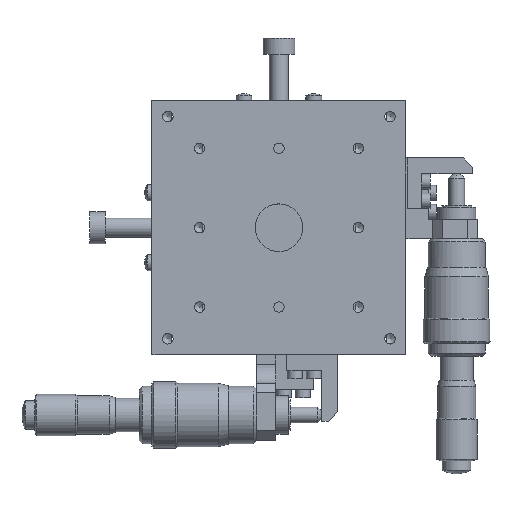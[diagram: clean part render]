
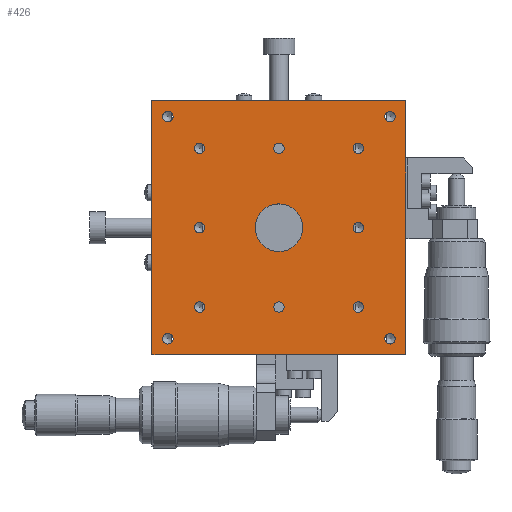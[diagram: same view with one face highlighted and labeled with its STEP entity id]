
A CAD part, top view. The second image highlights one B-rep face of the part: STEP entity #426.
In plain terms, the highlighted planar face has unit normal (0, 0, 1).
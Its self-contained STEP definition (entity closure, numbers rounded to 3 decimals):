
#426 = ADVANCED_FACE( '', ( #959, #960, #961, #962, #963, #964, #965, #966, #967, #968, #969, #970, #971, #972 ), #973, .T. );
#959 = FACE_OUTER_BOUND( '', #1710, .T. );
#960 = FACE_BOUND( '', #1711, .T. );
#961 = FACE_BOUND( '', #1712, .T. );
#962 = FACE_BOUND( '', #1713, .T. );
#963 = FACE_BOUND( '', #1714, .T. );
#964 = FACE_BOUND( '', #1715, .T. );
#965 = FACE_BOUND( '', #1716, .T. );
#966 = FACE_BOUND( '', #1717, .T. );
#967 = FACE_BOUND( '', #1718, .T. );
#968 = FACE_BOUND( '', #1719, .T. );
#969 = FACE_BOUND( '', #1720, .T. );
#970 = FACE_BOUND( '', #1721, .T. );
#971 = FACE_BOUND( '', #1722, .T. );
#972 = FACE_BOUND( '', #1723, .T. );
#973 = PLANE( '', #1724 );
#1710 = EDGE_LOOP( '', ( #3213, #3214, #3215, #3216 ) );
#1711 = EDGE_LOOP( '', ( #3217 ) );
#1712 = EDGE_LOOP( '', ( #3218 ) );
#1713 = EDGE_LOOP( '', ( #3219 ) );
#1714 = EDGE_LOOP( '', ( #3220 ) );
#1715 = EDGE_LOOP( '', ( #3221 ) );
#1716 = EDGE_LOOP( '', ( #3222 ) );
#1717 = EDGE_LOOP( '', ( #3223 ) );
#1718 = EDGE_LOOP( '', ( #3224 ) );
#1719 = EDGE_LOOP( '', ( #3225 ) );
#1720 = EDGE_LOOP( '', ( #3226 ) );
#1721 = EDGE_LOOP( '', ( #3227 ) );
#1722 = EDGE_LOOP( '', ( #3228 ) );
#1723 = EDGE_LOOP( '', ( #3229 ) );
#1724 = AXIS2_PLACEMENT_3D( '', #3230, #3231, #3232 );
#3213 = ORIENTED_EDGE( '', *, *, #4679, .T. );
#3214 = ORIENTED_EDGE( '', *, *, #4680, .T. );
#3215 = ORIENTED_EDGE( '', *, *, #4637, .T. );
#3216 = ORIENTED_EDGE( '', *, *, #4681, .T. );
#3217 = ORIENTED_EDGE( '', *, *, #4552, .T. );
#3218 = ORIENTED_EDGE( '', *, *, #4555, .T. );
#3219 = ORIENTED_EDGE( '', *, *, #4682, .T. );
#3220 = ORIENTED_EDGE( '', *, *, #4657, .T. );
#3221 = ORIENTED_EDGE( '', *, *, #4625, .T. );
#3222 = ORIENTED_EDGE( '', *, *, #4539, .T. );
#3223 = ORIENTED_EDGE( '', *, *, #4683, .T. );
#3224 = ORIENTED_EDGE( '', *, *, #4684, .T. );
#3225 = ORIENTED_EDGE( '', *, *, #4592, .T. );
#3226 = ORIENTED_EDGE( '', *, *, #4685, .T. );
#3227 = ORIENTED_EDGE( '', *, *, #4686, .T. );
#3228 = ORIENTED_EDGE( '', *, *, #4687, .T. );
#3229 = ORIENTED_EDGE( '', *, *, #4688, .T. );
#3230 = CARTESIAN_POINT( '', ( 0., 0., 22. ) );
#3231 = DIRECTION( '', ( 0., 0., 1. ) );
#3232 = DIRECTION( '', ( -1., 0., 0. ) );
#4539 = EDGE_CURVE( '', #5386, #5386, #5387, .F. );
#4552 = EDGE_CURVE( '', #5410, #5410, #5411, .F. );
#4555 = EDGE_CURVE( '', #5414, #5414, #5415, .F. );
#4592 = EDGE_CURVE( '', #5480, #5480, #5481, .F. );
#4625 = EDGE_CURVE( '', #5539, #5539, #5540, .F. );
#4637 = EDGE_CURVE( '', #5561, #5558, #5562, .T. );
#4657 = EDGE_CURVE( '', #5591, #5591, #5592, .F. );
#4679 = EDGE_CURVE( '', #5626, #5627, #5628, .T. );
#4680 = EDGE_CURVE( '', #5627, #5561, #5629, .T. );
#4681 = EDGE_CURVE( '', #5558, #5626, #5630, .T. );
#4682 = EDGE_CURVE( '', #5631, #5631, #5632, .F. );
#4683 = EDGE_CURVE( '', #5633, #5633, #5634, .F. );
#4684 = EDGE_CURVE( '', #5635, #5635, #5636, .F. );
#4685 = EDGE_CURVE( '', #5637, #5637, #5638, .F. );
#4686 = EDGE_CURVE( '', #5639, #5639, #5640, .F. );
#4687 = EDGE_CURVE( '', #5641, #5641, #5642, .F. );
#4688 = EDGE_CURVE( '', #5643, #5643, #5644, .F. );
#5386 = VERTEX_POINT( '', #6686 );
#5387 = CIRCLE( '', #6687, 1.65 );
#5410 = VERTEX_POINT( '', #6737 );
#5411 = CIRCLE( '', #6738, 1.65 );
#5414 = VERTEX_POINT( '', #6741 );
#5415 = CIRCLE( '', #6742, 1.65 );
#5480 = VERTEX_POINT( '', #6845 );
#5481 = CIRCLE( '', #6846, 1.65 );
#5539 = VERTEX_POINT( '', #6957 );
#5540 = CIRCLE( '', #6958, 7.5 );
#5558 = VERTEX_POINT( '', #6982 );
#5561 = VERTEX_POINT( '', #6986 );
#5562 = LINE( '', #6987, #6988 );
#5591 = VERTEX_POINT( '', #7033 );
#5592 = CIRCLE( '', #7034, 1.65 );
#5626 = VERTEX_POINT( '', #7082 );
#5627 = VERTEX_POINT( '', #7083 );
#5628 = LINE( '', #7084, #7085 );
#5629 = LINE( '', #7086, #7087 );
#5630 = LINE( '', #7088, #7089 );
#5631 = VERTEX_POINT( '', #7090 );
#5632 = CIRCLE( '', #7091, 1.65 );
#5633 = VERTEX_POINT( '', #7092 );
#5634 = CIRCLE( '', #7093, 1.65 );
#5635 = VERTEX_POINT( '', #7094 );
#5636 = CIRCLE( '', #7095, 1.65 );
#5637 = VERTEX_POINT( '', #7096 );
#5638 = CIRCLE( '', #7097, 1.65 );
#5639 = VERTEX_POINT( '', #7098 );
#5640 = CIRCLE( '', #7099, 1.65 );
#5641 = VERTEX_POINT( '', #7100 );
#5642 = CIRCLE( '', #7101, 1.65 );
#5643 = VERTEX_POINT( '', #7102 );
#5644 = CIRCLE( '', #7103, 1.65 );
#6686 = CARTESIAN_POINT( '', ( -1.65, 25., 22. ) );
#6687 = AXIS2_PLACEMENT_3D( '', #8190, #8191, #8192 );
#6737 = CARTESIAN_POINT( '', ( 33.35, 35., 22. ) );
#6738 = AXIS2_PLACEMENT_3D( '', #8210, #8211, #8212 );
#6741 = CARTESIAN_POINT( '', ( 33.35, -35., 22. ) );
#6742 = AXIS2_PLACEMENT_3D( '', #8219, #8220, #8221 );
#6845 = CARTESIAN_POINT( '', ( 23.35, -25., 22. ) );
#6846 = AXIS2_PLACEMENT_3D( '', #8267, #8268, #8269 );
#6957 = CARTESIAN_POINT( '', ( -7.5, 0., 22. ) );
#6958 = AXIS2_PLACEMENT_3D( '', #8311, #8312, #8313 );
#6982 = CARTESIAN_POINT( '', ( 40., 40., 22. ) );
#6986 = CARTESIAN_POINT( '', ( 40., -40., 22. ) );
#6987 = CARTESIAN_POINT( '', ( 40., 0., 22. ) );
#6988 = VECTOR( '', #8333, 1000. );
#7033 = CARTESIAN_POINT( '', ( -36.65, 35., 22. ) );
#7034 = AXIS2_PLACEMENT_3D( '', #8359, #8360, #8361 );
#7082 = CARTESIAN_POINT( '', ( -40., 40., 22. ) );
#7083 = CARTESIAN_POINT( '', ( -40., -40., 22. ) );
#7084 = CARTESIAN_POINT( '', ( -40., 0., 22. ) );
#7085 = VECTOR( '', #8397, 1000. );
#7086 = CARTESIAN_POINT( '', ( 0., -40., 22. ) );
#7087 = VECTOR( '', #8398, 1000. );
#7088 = CARTESIAN_POINT( '', ( 0., 40., 22. ) );
#7089 = VECTOR( '', #8399, 1000. );
#7090 = CARTESIAN_POINT( '', ( -36.65, -35., 22. ) );
#7091 = AXIS2_PLACEMENT_3D( '', #8400, #8401, #8402 );
#7092 = CARTESIAN_POINT( '', ( 23.35, 25., 22. ) );
#7093 = AXIS2_PLACEMENT_3D( '', #8403, #8404, #8405 );
#7094 = CARTESIAN_POINT( '', ( 23.35, 0., 22. ) );
#7095 = AXIS2_PLACEMENT_3D( '', #8406, #8407, #8408 );
#7096 = CARTESIAN_POINT( '', ( -1.65, -25., 22. ) );
#7097 = AXIS2_PLACEMENT_3D( '', #8409, #8410, #8411 );
#7098 = CARTESIAN_POINT( '', ( -26.65, -25., 22. ) );
#7099 = AXIS2_PLACEMENT_3D( '', #8412, #8413, #8414 );
#7100 = CARTESIAN_POINT( '', ( -26.65, 0., 22. ) );
#7101 = AXIS2_PLACEMENT_3D( '', #8415, #8416, #8417 );
#7102 = CARTESIAN_POINT( '', ( -26.65, 25., 22. ) );
#7103 = AXIS2_PLACEMENT_3D( '', #8418, #8419, #8420 );
#8190 = CARTESIAN_POINT( '', ( 0., 25., 22. ) );
#8191 = DIRECTION( '', ( 0., 0., 1. ) );
#8192 = DIRECTION( '', ( -1., 0., 0. ) );
#8210 = CARTESIAN_POINT( '', ( 35., 35., 22. ) );
#8211 = DIRECTION( '', ( 0., 0., 1. ) );
#8212 = DIRECTION( '', ( -1., 0., 0. ) );
#8219 = CARTESIAN_POINT( '', ( 35., -35., 22. ) );
#8220 = DIRECTION( '', ( 0., 0., 1. ) );
#8221 = DIRECTION( '', ( -1., 0., 0. ) );
#8267 = CARTESIAN_POINT( '', ( 25., -25., 22. ) );
#8268 = DIRECTION( '', ( 0., 0., 1. ) );
#8269 = DIRECTION( '', ( -1., 0., 0. ) );
#8311 = CARTESIAN_POINT( '', ( 0., 0., 22. ) );
#8312 = DIRECTION( '', ( 0., 0., 1. ) );
#8313 = DIRECTION( '', ( -1., 0., 0. ) );
#8333 = DIRECTION( '', ( 0., 1., 0. ) );
#8359 = CARTESIAN_POINT( '', ( -35., 35., 22. ) );
#8360 = DIRECTION( '', ( 0., 0., 1. ) );
#8361 = DIRECTION( '', ( -1., 0., 0. ) );
#8397 = DIRECTION( '', ( 0., -1., 0. ) );
#8398 = DIRECTION( '', ( 1., 0., 0. ) );
#8399 = DIRECTION( '', ( -1., 0., 0. ) );
#8400 = CARTESIAN_POINT( '', ( -35., -35., 22. ) );
#8401 = DIRECTION( '', ( 0., 0., 1. ) );
#8402 = DIRECTION( '', ( -1., 0., 0. ) );
#8403 = CARTESIAN_POINT( '', ( 25., 25., 22. ) );
#8404 = DIRECTION( '', ( 0., 0., 1. ) );
#8405 = DIRECTION( '', ( -1., 0., 0. ) );
#8406 = CARTESIAN_POINT( '', ( 25., 0., 22. ) );
#8407 = DIRECTION( '', ( 0., 0., 1. ) );
#8408 = DIRECTION( '', ( -1., 0., 0. ) );
#8409 = CARTESIAN_POINT( '', ( 0., -25., 22. ) );
#8410 = DIRECTION( '', ( 0., 0., 1. ) );
#8411 = DIRECTION( '', ( -1., 0., 0. ) );
#8412 = CARTESIAN_POINT( '', ( -25., -25., 22. ) );
#8413 = DIRECTION( '', ( 0., 0., 1. ) );
#8414 = DIRECTION( '', ( -1., 0., 0. ) );
#8415 = CARTESIAN_POINT( '', ( -25., 0., 22. ) );
#8416 = DIRECTION( '', ( 0., 0., 1. ) );
#8417 = DIRECTION( '', ( -1., 0., 0. ) );
#8418 = CARTESIAN_POINT( '', ( -25., 25., 22. ) );
#8419 = DIRECTION( '', ( 0., 0., 1. ) );
#8420 = DIRECTION( '', ( -1., 0., 0. ) );
